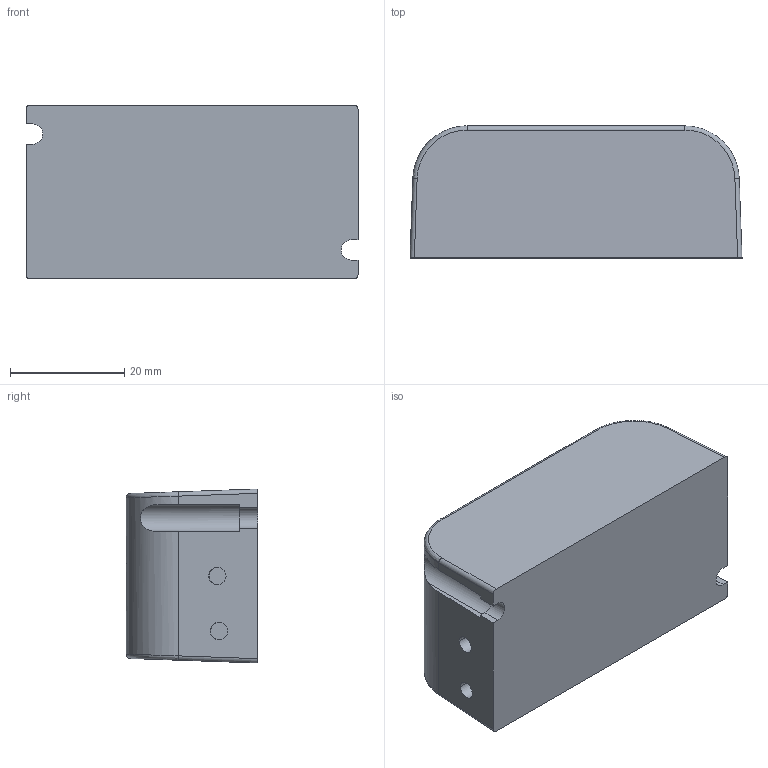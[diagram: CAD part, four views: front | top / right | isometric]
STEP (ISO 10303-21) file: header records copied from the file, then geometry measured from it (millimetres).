
FILE_DESCRIPTION (( 'STEP AP214' ), '1' );
FILE_NAME ('AC10CD250AT2K.STEP', '2017-11-01T01:31:34', ( '' ), ( '' ), 'SwSTEP 2.0', 'SolidWorks 2016', '' );
FILE_SCHEMA (( 'AUTOMOTIVE_DESIGN' ));
Length unit declared in the file: inch
Products named in the file (1): AC10CD250AT2K
Bounding box: 58.17 x 23.11 x 30.48 mm (x, y, z)
Volume: 37745.6 mm3; surface area: 7396.3 mm2
Topology: 1 solids, 1 shells, 203 faces, 535 edges, 354 vertices
Faces by surface type: plane 116, bspline 67, cylinder 20
Entity records: 12601 total; most frequent: CARTESIAN_POINT 5885, ORIENTED_EDGE 1070, DIRECTION 701, EDGE_CURVE 535, VERTEX_POINT 354, LINE 353, VECTOR 353, EDGE_LOOP 223
